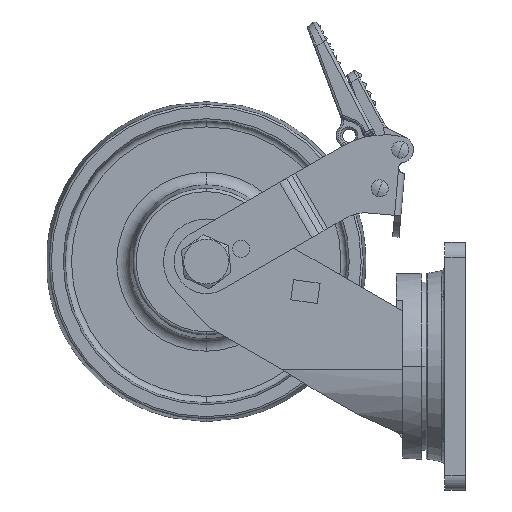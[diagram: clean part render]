
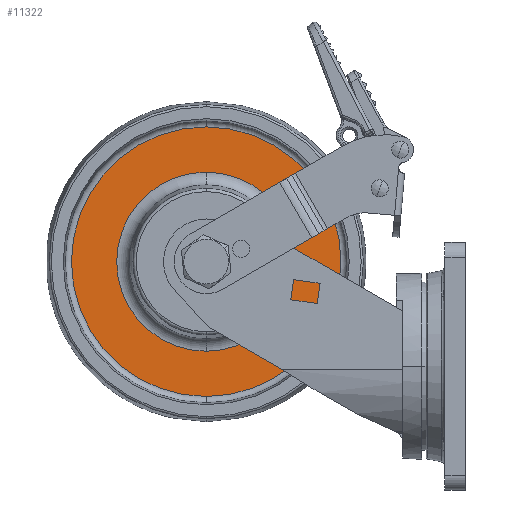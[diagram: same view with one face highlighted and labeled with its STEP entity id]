
A CAD part, left-side view. The second image highlights one B-rep face of the part: STEP entity #11322.
In plain terms, the highlighted planar face has unit normal (-1, 0, 0) as drawn and (0, 0, 1) by its records, which use the part's own axes.
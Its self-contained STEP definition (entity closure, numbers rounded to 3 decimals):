
#10776=CARTESIAN_POINT('',(0.,0.,4.));
#10777=DIRECTION('',(0.,0.,-1.));
#10778=DIRECTION('',(-1.,0.,0.));
#10779=AXIS2_PLACEMENT_3D('',#10776,#10777,#10778);
#10781=CARTESIAN_POINT('',(0.,0.,4.));
#10782=DIRECTION('',(0.,0.,-1.));
#10783=DIRECTION('',(1.,0.,0.));
#10784=AXIS2_PLACEMENT_3D('',#10781,#10782,#10783);
#10786=CARTESIAN_POINT('',(0.,0.,4.));
#10787=DIRECTION('',(0.,0.,1.));
#10788=DIRECTION('',(1.,0.,0.));
#10789=AXIS2_PLACEMENT_3D('',#10786,#10787,#10788);
#10791=CARTESIAN_POINT('',(0.,0.,4.));
#10792=DIRECTION('',(0.,0.,1.));
#10793=DIRECTION('',(-1.,0.,0.));
#10794=AXIS2_PLACEMENT_3D('',#10791,#10792,#10793);
#11146=CARTESIAN_POINT('',(41.951,0.,
4.));
#11147=VERTEX_POINT('',#11146);
#11148=CARTESIAN_POINT('',(-41.951,0.,4.));
#11149=VERTEX_POINT('',#11148);
#11150=CARTESIAN_POINT('',(-63.158,0.,4.));
#11151=CARTESIAN_POINT('',(63.158,0.,4.));
#11152=VERTEX_POINT('',#11150);
#11153=VERTEX_POINT('',#11151);
#11307=CARTESIAN_POINT('',(0.,41.951,4.));
#11308=DIRECTION('',(0.,0.,-1.));
#11309=DIRECTION('',(-1.,0.,0.));
#11310=AXIS2_PLACEMENT_3D('',#11307,#11308,#11309);
#11311=PLANE('',#11310);
#11313=ORIENTED_EDGE('',*,*,#11312,.T.);
#11315=ORIENTED_EDGE('',*,*,#11314,.T.);
#11316=EDGE_LOOP('',(#11313,#11315));
#11317=FACE_OUTER_BOUND('',#11316,.F.);
#11318=ORIENTED_EDGE('',*,*,#11300,.T.);
#11319=ORIENTED_EDGE('',*,*,#11287,.T.);
#11320=EDGE_LOOP('',(#11318,#11319));
#11321=FACE_BOUND('',#11320,.F.);
#10780=CIRCLE('',#10779,63.158);
#10785=CIRCLE('',#10784,63.158);
#10790=CIRCLE('',#10789,41.951);
#10795=CIRCLE('',#10794,41.951);
#11287=EDGE_CURVE('',#11149,#11147,#10795,.T.);
#11300=EDGE_CURVE('',#11147,#11149,#10790,.T.);
#11312=EDGE_CURVE('',#11152,#11153,#10780,.T.);
#11314=EDGE_CURVE('',#11153,#11152,#10785,.T.);
#11322=ADVANCED_FACE('',(#11317,#11321),#11311,.F.);
